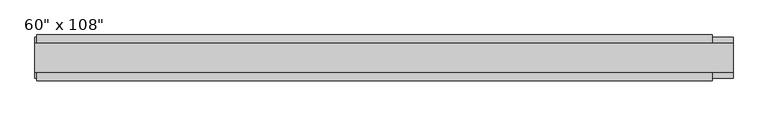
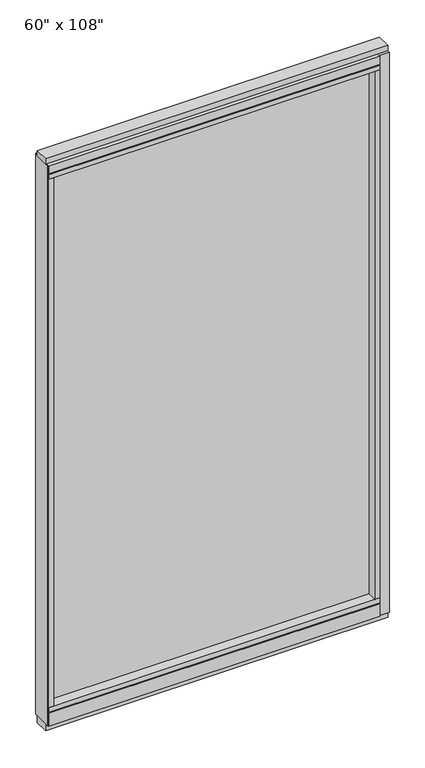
"""IFC4 building model written with IfcOpenShell, lengths in millimetres: furniture geometry."""

from ifc_helpers import new_model, si_unit, frame, origin, origin_with_axes, place, context, project, spatial, polyline, outline, extrude, source, transform, mapped, element, save


def furniture_dead7d80(model_context):
    return source(origin(), model_context, "Body", "SweptSolid", [
        extrude(outline(polyline([(669.4514771, 9.5977216), (669.4514771, -0.5622784), (-789.5245229, -0.5622784), (-789.5245229, 9.5977216), (669.4514771, 9.5977216)])), frame((0.0, 0.0, 120.523), z_axis=(0.0, 0.0, 1.0), x_axis=(1.0, 0.0, 0.0)), (0.0, 0.0, 1.0), 2533.777),
        extrude(outline(polyline([(55.3177216, 93.345), (55.3177216, 31.75), (-46.2822784, 31.75), (-46.2822784, 93.345), (-41.3292784, 93.345), (-41.3292784, 98.298), (50.3647216, 98.298), (50.3647216, 93.345), (55.3177216, 93.345)])), frame((-811.7495229, 0.0, 0.0), z_axis=(1.0, 0.0, 0.0), x_axis=(0.0, 1.0, 0.0)), (0.0, 0.0, 1.0), 1503.426),
        extrude(outline(polyline([(-811.7495229, 55.3177216), (691.6764771, 55.3177216), (691.6764771, -46.2822784), (-811.7495229, -46.2822784), (-811.7495229, 55.3177216)])), frame((0.0, 0.0, 98.298), z_axis=(0.0, 0.0, 1.0), x_axis=(1.0, 0.0, 0.0)), (0.0, 0.0, 1.0), 22.225),
        extrude(outline(polyline([(738.5394771, -27.9942784), (-815.6865229, -27.9942784), (-815.6865229, 37.0297216), (738.5394771, 37.0297216), (738.5394771, -27.9942784)])), origin_with_axes(), (0.0, 0.0, 1.0), 31.75),
        extrude(outline(polyline([(-815.6865229, 37.0297216), (738.5394771, 37.0297216), (738.5394771, -27.9942784), (-815.6865229, -27.9942784), (-815.6865229, 37.0297216)])), frame((0.0, 0.0, 2717.8), z_axis=(0.0, 0.0, 1.0), x_axis=(1.0, 0.0, 0.0)), (0.0, 0.0, 1.0), 25.4),
        extrude(outline(polyline([(55.3177216, 2681.478), (50.3647216, 2681.478), (50.3647216, 2676.525), (-41.3292784, 2676.525), (-41.3292784, 2681.478), (-46.2822784, 2681.478), (-46.2822784, 2717.8), (55.3177216, 2717.8), (55.3177216, 2681.478)])), frame((-811.7495229, 0.0, 0.0), z_axis=(1.0, 0.0, 0.0), x_axis=(0.0, 1.0, 0.0)), (0.0, 0.0, 1.0), 1503.426),
        extrude(outline(polyline([(691.6764771, -46.2822784), (-811.7495229, -46.2822784), (-811.7495229, 55.3177216), (691.6764771, 55.3177216), (691.6764771, -46.2822784)])), frame((0.0, 0.0, 2654.3), z_axis=(0.0, 0.0, 1.0), x_axis=(1.0, 0.0, 0.0)), (0.0, 0.0, 1.0), 22.225),
        extrude(outline(polyline([(669.4514771, 55.3177216), (691.6764771, 55.3177216), (691.6764771, -46.2822784), (669.4514771, -46.2822784), (669.4514771, 55.3177216)])), frame((0.0, 0.0, 120.523), z_axis=(0.0, 0.0, 1.0), x_axis=(1.0, 0.0, 0.0)), (0.0, 0.0, 1.0), 2533.777),
        extrude(outline(polyline([(-789.5245229, 55.3177216), (-789.5245229, -46.2822784), (-811.7495229, -46.2822784), (-811.7495229, 55.3177216), (-789.5245229, 55.3177216)])), frame((0.0, 0.0, 120.523), z_axis=(0.0, 0.0, 1.0), x_axis=(1.0, 0.0, 0.0)), (0.0, 0.0, 1.0), 2533.777),
        extrude(outline(polyline([(738.5394771, 50.3647216), (738.5394771, -41.3292784), (691.6764771, -41.3292784), (691.6764771, 50.3647216), (738.5394771, 50.3647216)])), frame((0.0, 0.0, 31.75), z_axis=(0.0, 0.0, 1.0), x_axis=(1.0, 0.0, 0.0)), (0.0, 0.0, 1.0), 2686.05),
        extrude(outline(polyline([(-815.6865229, 50.3647216), (-811.7495229, 50.3647216), (-811.7495229, -41.3292784), (-815.6865229, -41.3292784), (-815.6865229, 50.3647216)])), frame((0.0, 0.0, 31.75), z_axis=(0.0, 0.0, 1.0), x_axis=(1.0, 0.0, 0.0)), (0.0, 0.0, 1.0), 2686.05),
    ])


if __name__ == "__main__":
    model = new_model("IFC4")
    model_context = context("Model", 3, world=origin())
    ifc_project = project(units=[si_unit("LENGTHUNIT", "METRE", prefix="MILLI")], contexts=[model_context])
    site = spatial("IfcSite", under=ifc_project)
    building = spatial("IfcBuilding", under=site)
    placement = place(None, origin())
    furniture_shape = furniture_dead7d80(model_context)
    element("IfcFurniture", 1, ObjectType="Haworth_Enclose_Wall_Glass : 60\" x 108\"", at=placement, inside=building, context=model_context, shape_type="MappedRepresentation", body=[
        mapped(furniture_shape, transform((0.0, 0.0, 0.0), x_axis=(1.0, 0.0, 0.0), y_axis=(0.0, 1.0, 0.0), z_axis=(0.0, 0.0, 1.0))),
    ])
    save(model, "model.ifc")
